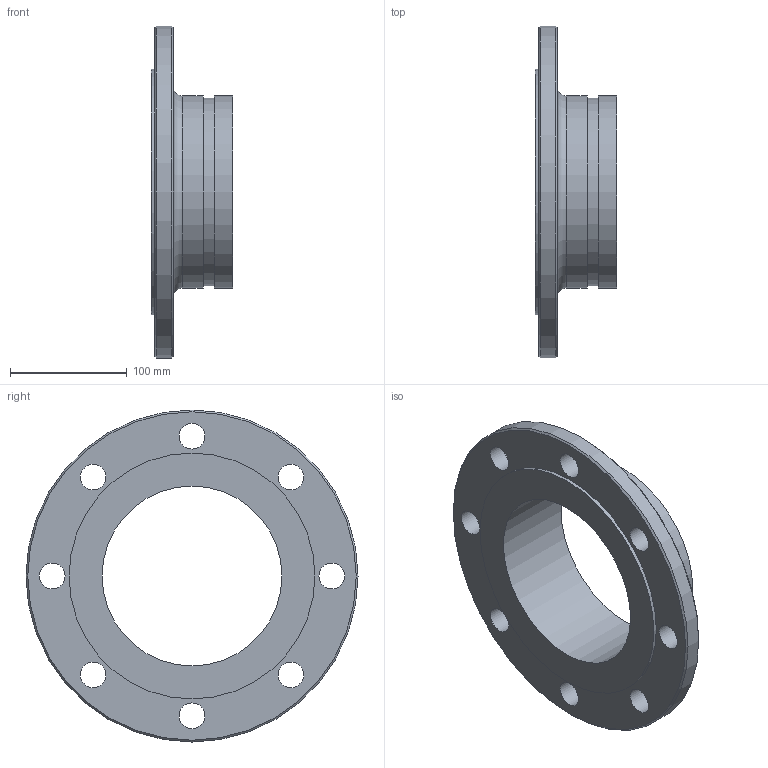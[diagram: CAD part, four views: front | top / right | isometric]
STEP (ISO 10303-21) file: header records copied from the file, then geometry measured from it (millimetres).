
FILE_DESCRIPTION(/* description */ ('VIC FLG ADPTR NIP PN10 RF No 45RE (OGSxFLG)'),/* implementation_level */ '2;1');
FILE_NAME(/* name */ 'C:\Users\vjadhav\OneDrive - Victaulic Company\Desktop\New folder\Victaulic_IPS_Flgd Adptr Nip_PN10 RF_No 45RE (OGSxFLG)\Victaulic_IPS_Flgd Adptr Nip_PN10 RF_No 45RE (OGSxFLG)_06.0 (165.1) (150).stp',/* time_stamp */ '2024-04-01T13:02:28+02:00',/* author */ ('jheald'),/* organization */ ('Victaulic'),/* preprocessor_version */ 'ST-DEVELOPER v18.1',/* originating_system */ 'Autodesk Inventor 2020',/* authorisation */ '');
FILE_SCHEMA (('AUTOMOTIVE_DESIGN { 1 0 10303 214 3 1 1 }'));
Length unit declared in the file: inch
Products named in the file (1): 045RE-06.0 (165.1)
Bounding box: 70.1 x 284.99 x 284.99 mm (x, y, z)
Volume: 851839.8 mm3; surface area: 168449.2 mm2
Topology: 1 solids, 1 shells, 23 faces, 62 edges, 45 vertices
Faces by surface type: cylinder 14, plane 6, cone 2, torus 1
Full cylindrical faces by diameter (mm): 22.098 x8, 154.432 x1, 160.782 x1, 165.1 x2, 210.998 x1, 284.988 x1
Entity records: 872 total; most frequent: DIRECTION 156, CARTESIAN_POINT 131, ORIENTED_EDGE 124, AXIS2_PLACEMENT_3D 70, EDGE_CURVE 62, CIRCLE 46, EDGE_LOOP 45, VERTEX_POINT 45
